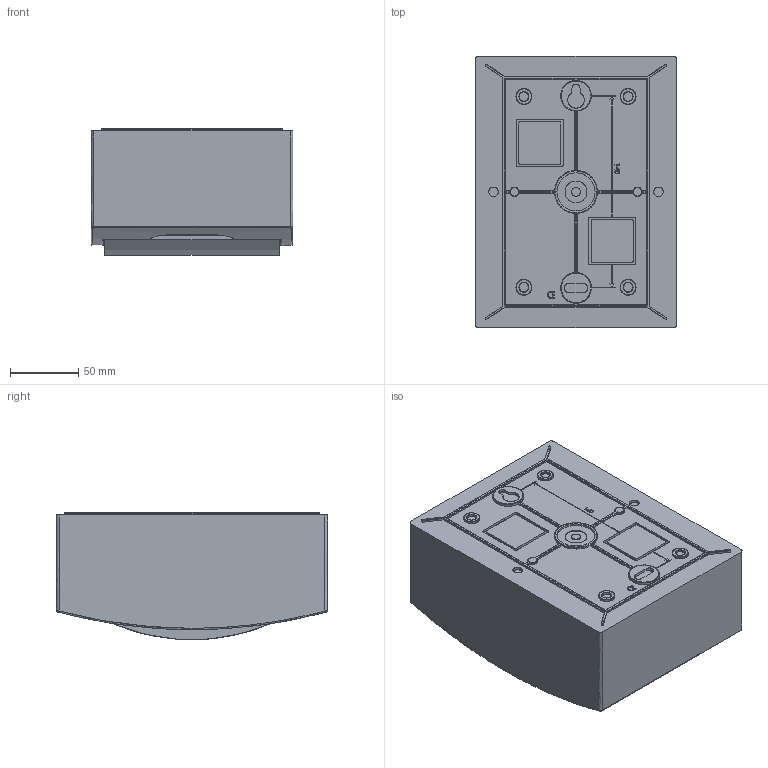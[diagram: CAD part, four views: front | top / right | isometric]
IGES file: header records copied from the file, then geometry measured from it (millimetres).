
Start section: SolidWorks IGES file using analytic representation for surfaces
Global section: file name: Q:\GROUPS\BR_SC_JGS_WA_TECNICO\ENG\Usuarios\Rodrigob\conversão\Linha Predial\Produto\Quadros QDW\QDW\QDW02-S\QDW02-6-S\QDW02-6-S.IGS; native system: SolidWorks 2012; preprocessor: SolidWorks 2012; author: rodrigob; date: 140320.142654; units: millimetre
Bounding box: 148 x 199 x 93.61 mm (x, y, z)
Surface area: 167424.3 mm2 (no closed solid volume)
Topology: 0 solids, 0 shells, 597 faces, 8085 edges, 8080 vertices
Faces by surface type: bspline 372, revolution 225
